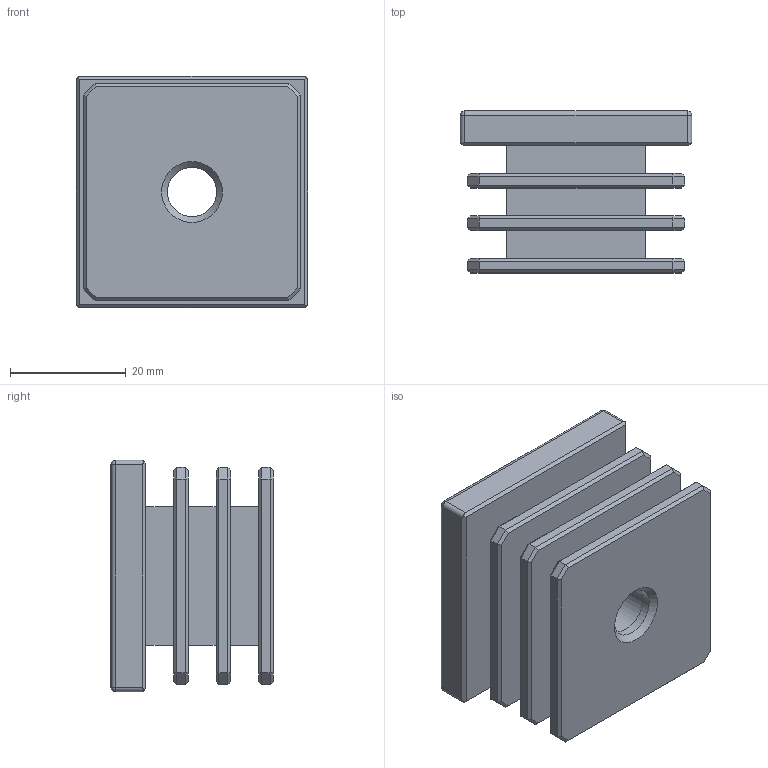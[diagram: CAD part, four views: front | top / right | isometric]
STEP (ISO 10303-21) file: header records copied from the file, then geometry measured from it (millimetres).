
FILE_DESCRIPTION(('STEP AP203'),'2;1');
FILE_NAME('32108.stp','2014-05-26T13:54:00',(''),(''),'2008.1.107','THINKDESIGN','');
FILE_SCHEMA(('CONFIG_CONTROL_DESIGN'));
Length unit declared in the file: millimetre
Bounding box: 40 x 28 x 40 mm (x, y, z)
Volume: 26668.5 mm3; surface area: 18044 mm2
Topology: 7 solids, 7 shells, 127 faces, 298 edges, 181 vertices
Faces by surface type: bspline 70, plane 42, cylinder 15
Full cylindrical faces by diameter (mm): 8.5 x7
Entity records: 5020 total; most frequent: CARTESIAN_POINT 2183, ORIENTED_EDGE 586, DIRECTION 421, EDGE_CURVE 293, VECTOR 217, LINE 217, VERTEX_POINT 180, EDGE_LOOP 141
